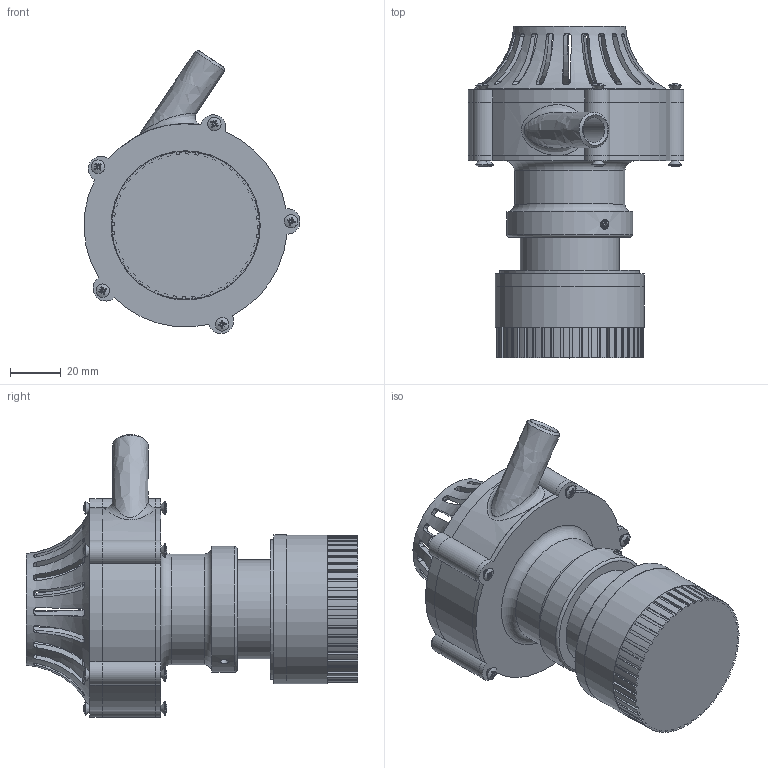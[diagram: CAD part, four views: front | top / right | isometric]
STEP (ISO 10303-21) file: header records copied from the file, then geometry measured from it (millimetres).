
FILE_DESCRIPTION(/* description */ (''),/* implementation_level */ '2;1');
FILE_NAME(/* name */ 'C:\Users\admin\Desktop\inventor\pompa di sentina\step\Bilge.stp',/* time_stamp */ '2021-10-28T20:47:45+02:00',/* author */ ('admin'),/* organization */ (''),/* preprocessor_version */ 'ST-DEVELOPER v18.1',/* originating_system */ 'Autodesk Inventor 2022',/* authorisation */ '');
FILE_SCHEMA (('AUTOMOTIVE_DESIGN { 1 0 10303 214 3 1 1 }'));
Length unit declared in the file: millimetre
Products named in the file (9): Bilge; Bilge_Motor; Bilge_Axis; IMPELER; cassa; cassa2; cassa3; AS 1427 - M3 x 12; AS 1421 - M3 x 8 punta piana
Assembly tree (17 placements, depth 2):
  Bilge
    Bilge_Motor
    Bilge_Axis
    IMPELER
    cassa
    cassa2
    cassa3
    AS 1427 - M3 x 12  x10
    AS 1421 - M3 x 8 punta piana
Bounding box: 84.93 x 130.5 x 111.29 mm (x, y, z)
Volume: 212741.8 mm3; surface area: 82289.4 mm2
Topology: 17 solids, 17 shells, 1041 faces, 2797 edges, 1796 vertices
Faces by surface type: plane 434, cylinder 258, cone 165, torus 134, bspline 28, sphere 22
Full cylindrical faces by diameter (mm): 2.387 x10, 3 x28, 3.2 x1, 5.3 x10, 6 x2, 10 x1, 39 x1, 39.6 x1, 43.6 x1, 49.6 x1, 51 x1, 55 x1, 58.5 x1, 58.7 x1, 72 x1, 76 x1
Entity records: 29743 total; most frequent: CARTESIAN_POINT 12438, ORIENTED_EDGE 3628, DIRECTION 3464, EDGE_CURVE 1814, AXIS2_PLACEMENT_3D 1338, VERTEX_POINT 1166, LINE 788, VECTOR 788
